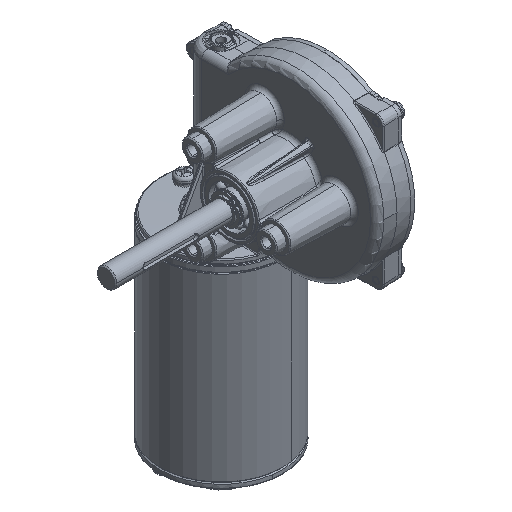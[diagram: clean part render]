
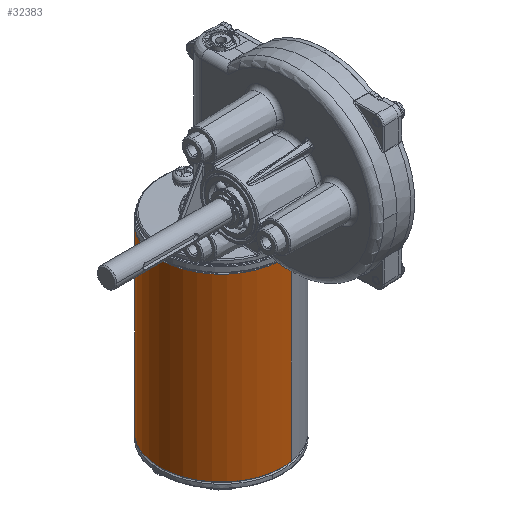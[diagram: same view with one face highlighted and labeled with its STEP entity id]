
A CAD part, isometric view. The second image highlights one B-rep face of the part: STEP entity #32383.
In plain terms, the highlighted cylindrical face has radius 31.75 mm (diameter 63.5 mm), a partial arc.
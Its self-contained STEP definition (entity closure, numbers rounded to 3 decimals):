
#113 = VERTEX_POINT ( 'NONE', #39072 ) ;
#1491 = AXIS2_PLACEMENT_3D ( 'NONE', #27843, #8462, #8734 ) ;
#1662 = LINE ( 'NONE', #22166, #34620 ) ;
#2069 = DIRECTION ( 'NONE',  ( 0., 0., -1. ) ) ;
#4575 = CIRCLE ( 'NONE', #28360, 31.75 ) ;
#4671 = CARTESIAN_POINT ( 'NONE',  ( -4.967, 31.359, -143.5 ) ) ;
#7233 = EDGE_CURVE ( 'NONE', #18671, #113, #4575, .T. ) ;
#8462 = DIRECTION ( 'NONE',  ( 0., 0., -1. ) ) ;
#8734 = DIRECTION ( 'NONE',  ( 0.156, -0.988, 0. ) ) ;
#9242 = ORIENTED_EDGE ( 'NONE', *, *, #30303, .F. ) ;
#9338 = DIRECTION ( 'NONE',  ( 0., 0., -1. ) ) ;
#11288 = EDGE_CURVE ( 'NONE', #13569, #37760, #17324, .T. ) ;
#11562 = DIRECTION ( 'NONE',  ( 0.156, -0.988, 0. ) ) ;
#12160 = CARTESIAN_POINT ( 'NONE',  ( 0., 0., -50. ) ) ;
#13569 = VERTEX_POINT ( 'NONE', #29669 ) ;
#13694 = LINE ( 'NONE', #18409, #29665 ) ;
#17324 = CIRCLE ( 'NONE', #1491, 31.75 ) ;
#18409 = CARTESIAN_POINT ( 'NONE',  ( -4.967, 31.359, -50. ) ) ;
#18671 = VERTEX_POINT ( 'NONE', #4671 ) ;
#20549 = CYLINDRICAL_SURFACE ( 'NONE', #22424, 31.75 ) ;
#20693 = ORIENTED_EDGE ( 'NONE', *, *, #7233, .T. ) ;
#22166 = CARTESIAN_POINT ( 'NONE',  ( 4.967, -31.359, -50. ) ) ;
#22424 = AXIS2_PLACEMENT_3D ( 'NONE', #12160, #2069, #37797 ) ;
#23026 = FACE_OUTER_BOUND ( 'NONE', #30915, .T. ) ;
#24248 = CARTESIAN_POINT ( 'NONE',  ( 0., 0., -143.5 ) ) ;
#27843 = CARTESIAN_POINT ( 'NONE',  ( 0., 0., -50.5 ) ) ;
#27893 = DIRECTION ( 'NONE',  ( 0., 0., -1. ) ) ;
#28360 = AXIS2_PLACEMENT_3D ( 'NONE', #24248, #30664, #11562 ) ;
#29665 = VECTOR ( 'NONE', #27893, 1000. ) ;
#29669 = CARTESIAN_POINT ( 'NONE',  ( 4.967, -31.359, -50.5 ) ) ;
#30303 = EDGE_CURVE ( 'NONE', #13569, #113, #1662, .T. ) ;
#30664 = DIRECTION ( 'NONE',  ( 0., 0., 1. ) ) ;
#30740 = ORIENTED_EDGE ( 'NONE', *, *, #11288, .T. ) ;
#30915 = EDGE_LOOP ( 'NONE', ( #9242, #30740, #32941, #20693 ) ) ;
#32383 = ADVANCED_FACE ( 'NONE', ( #23026 ), #20549, .T. ) ;
#32941 = ORIENTED_EDGE ( 'NONE', *, *, #34761, .T. ) ;
#34620 = VECTOR ( 'NONE', #9338, 1000. ) ;
#34761 = EDGE_CURVE ( 'NONE', #37760, #18671, #13694, .T. ) ;
#37744 = CARTESIAN_POINT ( 'NONE',  ( -4.967, 31.359, -50.5 ) ) ;
#37760 = VERTEX_POINT ( 'NONE', #37744 ) ;
#37797 = DIRECTION ( 'NONE',  ( -0.156, 0.988, 0. ) ) ;
#39072 = CARTESIAN_POINT ( 'NONE',  ( 4.967, -31.359, -143.5 ) ) ;
